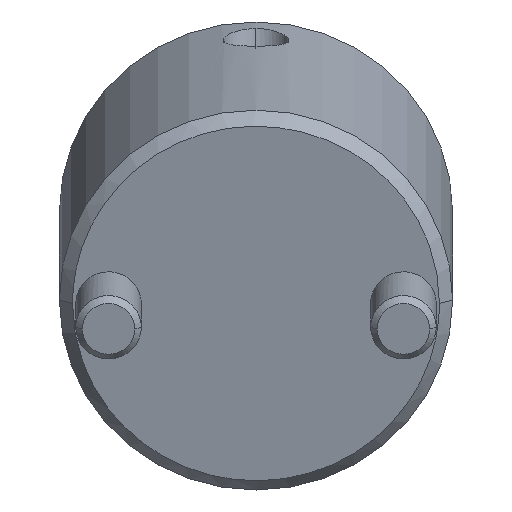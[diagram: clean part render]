
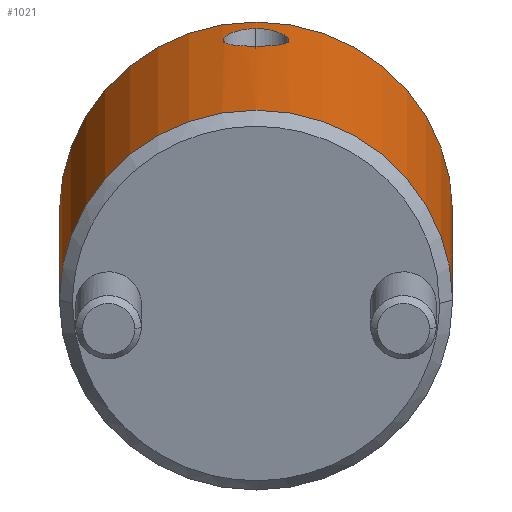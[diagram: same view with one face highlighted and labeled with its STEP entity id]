
A CAD part, front view. The second image highlights one B-rep face of the part: STEP entity #1021.
In plain terms, the highlighted cylindrical face has radius 15 mm (diameter 30 mm), a partial arc.
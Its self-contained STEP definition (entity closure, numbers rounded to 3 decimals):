
#787=CARTESIAN_POINT('Vertex',(0.,15.,1.)) ;
#790=CARTESIAN_POINT('Axis2P3D Location',(0.,0.,1.)) ;
#794=CARTESIAN_POINT('Vertex',(0.,-15.,1.)) ;
#934=CARTESIAN_POINT('Axis2P3D Location',(0.,0.,-1.4)) ;
#939=CARTESIAN_POINT('Line Origine',(0.,15.,-1.4)) ;
#943=CARTESIAN_POINT('Vertex',(0.,15.,27.)) ;
#946=CARTESIAN_POINT('Axis2P3D Location',(0.,0.,27.)) ;
#950=CARTESIAN_POINT('Vertex',(0.,-15.,27.)) ;
#953=CARTESIAN_POINT('Line Origine',(0.,-15.,-1.4)) ;
#965=CARTESIAN_POINT('Control Point',(15.,0.,25.059)) ;
#966=CARTESIAN_POINT('Control Point',(15.,0.222,25.059)) ;
#967=CARTESIAN_POINT('Control Point',(14.996,0.441,25.033)) ;
#968=CARTESIAN_POINT('Control Point',(14.988,0.664,24.978)) ;
#969=CARTESIAN_POINT('Control Point',(14.963,1.097,24.816)) ;
#970=CARTESIAN_POINT('Control Point',(14.929,1.474,24.561)) ;
#971=CARTESIAN_POINT('Control Point',(14.91,1.652,24.41)) ;
#972=CARTESIAN_POINT('Control Point',(14.878,1.921,24.124)) ;
#973=CARTESIAN_POINT('Control Point',(14.848,2.135,23.79)) ;
#974=CARTESIAN_POINT('Control Point',(14.836,2.213,23.647)) ;
#975=CARTESIAN_POINT('Control Point',(14.816,2.345,23.354)) ;
#976=CARTESIAN_POINT('Control Point',(14.801,2.433,23.043)) ;
#977=CARTESIAN_POINT('Control Point',(14.796,2.465,22.887)) ;
#978=CARTESIAN_POINT('Control Point',(14.784,2.538,22.331)) ;
#979=CARTESIAN_POINT('Control Point',(14.795,2.468,21.774)) ;
#980=CARTESIAN_POINT('Control Point',(14.817,2.344,21.395)) ;
#981=CARTESIAN_POINT('Control Point',(14.865,2.036,20.848)) ;
#982=CARTESIAN_POINT('Control Point',(14.917,1.588,20.428)) ;
#983=CARTESIAN_POINT('Control Point',(14.936,1.4,20.29)) ;
#984=CARTESIAN_POINT('Control Point',(14.968,1.025,20.073)) ;
#985=CARTESIAN_POINT('Control Point',(14.99,0.603,19.943)) ;
#986=CARTESIAN_POINT('Control Point',(14.997,0.4,19.901)) ;
#987=CARTESIAN_POINT('Control Point',(15.,0.2,19.882)) ;
#988=CARTESIAN_POINT('Control Point',(15.,0.,19.882)) ;
#989=CARTESIAN_POINT('Vertex',(15.,0.,25.059)) ;
#991=CARTESIAN_POINT('Vertex',(15.,0.,19.882)) ;
#995=CARTESIAN_POINT('Control Point',(15.,0.,19.882)) ;
#996=CARTESIAN_POINT('Control Point',(15.,-0.15,19.882)) ;
#997=CARTESIAN_POINT('Control Point',(14.998,-0.301,19.893)) ;
#998=CARTESIAN_POINT('Control Point',(14.994,-0.451,19.916)) ;
#999=CARTESIAN_POINT('Control Point',(14.983,-0.753,19.986)) ;
#1000=CARTESIAN_POINT('Control Point',(14.965,-1.042,20.1)) ;
#1001=CARTESIAN_POINT('Control Point',(14.955,-1.178,20.167)) ;
#1002=CARTESIAN_POINT('Control Point',(14.909,-1.705,20.479)) ;
#1003=CARTESIAN_POINT('Control Point',(14.853,-2.123,20.942)) ;
#1004=CARTESIAN_POINT('Control Point',(14.815,-2.352,21.362)) ;
#1005=CARTESIAN_POINT('Control Point',(14.772,-2.605,22.299)) ;
#1006=CARTESIAN_POINT('Control Point',(14.802,-2.429,23.275)) ;
#1007=CARTESIAN_POINT('Control Point',(14.837,-2.229,23.737)) ;
#1008=CARTESIAN_POINT('Control Point',(14.891,-1.852,24.258)) ;
#1009=CARTESIAN_POINT('Control Point',(14.939,-1.36,24.633)) ;
#1010=CARTESIAN_POINT('Control Point',(14.95,-1.233,24.717)) ;
#1011=CARTESIAN_POINT('Control Point',(14.974,-0.926,24.884)) ;
#1012=CARTESIAN_POINT('Control Point',(14.99,-0.587,24.995)) ;
#1013=CARTESIAN_POINT('Control Point',(14.997,-0.391,25.039)) ;
#1014=CARTESIAN_POINT('Control Point',(15.,-0.196,25.059)) ;
#1015=CARTESIAN_POINT('Control Point',(15.,0.,25.059)) ;
#791=DIRECTION('Axis2P3D Direction',(0.,0.,1.)) ;
#935=DIRECTION('Axis2P3D Direction',(0.,-0.,1.)) ;
#936=DIRECTION('Axis2P3D XDirection',(0.,-1.,0.)) ;
#940=DIRECTION('Vector Direction',(0.,0.,1.)) ;
#947=DIRECTION('Axis2P3D Direction',(0.,-0.,1.)) ;
#954=DIRECTION('Vector Direction',(0.,0.,1.)) ;
#792=AXIS2_PLACEMENT_3D('Circle Axis2P3D',#790,#791,$) ;
#937=AXIS2_PLACEMENT_3D('Cylinder Axis2P3D',#934,#935,#936) ;
#948=AXIS2_PLACEMENT_3D('Circle Axis2P3D',#946,#947,$) ;
#959=ORIENTED_EDGE('',*,*,#945,.F.) ;
#960=ORIENTED_EDGE('',*,*,#952,.T.) ;
#961=ORIENTED_EDGE('',*,*,#957,.T.) ;
#962=ORIENTED_EDGE('',*,*,#796,.F.) ;
#1018=ORIENTED_EDGE('',*,*,#993,.T.) ;
#1019=ORIENTED_EDGE('',*,*,#1016,.T.) ;
#1020=FACE_BOUND('',#1017,.T.) ;
#941=VECTOR('Line Direction',#940,1.) ;
#955=VECTOR('Line Direction',#954,1.) ;
#1021=ADVANCED_FACE('MANIFOLD_SOLID_BREP #1110',(#963,#1020),#938,.T.) ;
#964=B_SPLINE_CURVE_WITH_KNOTS('',5,(#965,#966,#967,#968,#969,#970,#971,#972,#973,#974,#975,#976,#977,#978,#979,#980,#981,#982,#983,#984,#985,#986,#987,#988),.UNSPECIFIED.,.F.,.U.,(6,3,3,3,3,3,3,6),(0.,1.607,3.272,4.392,5.5,8.246,9.875,11.325),.UNSPECIFIED.) ;
#994=B_SPLINE_CURVE_WITH_KNOTS('',5,(#995,#996,#997,#998,#999,#1000,#1001,#1002,#1003,#1004,#1005,#1006,#1007,#1008,#1009,#1010,#1011,#1012,#1013,#1014,#1015),.UNSPECIFIED.,.F.,.U.,(6,3,3,3,3,3,6),(0.,1.097,2.19,5.49,8.837,9.921,11.335),.UNSPECIFIED.) ;
#793=CIRCLE('generated circle',#792,15.) ;
#949=CIRCLE('generated circle',#948,15.) ;
#938=CYLINDRICAL_SURFACE('generated cylinder',#937,15.) ;
#796=EDGE_CURVE('',#788,#795,#793,.F.) ;
#945=EDGE_CURVE('',#944,#788,#942,.F.) ;
#952=EDGE_CURVE('',#944,#951,#949,.F.) ;
#957=EDGE_CURVE('',#951,#795,#956,.F.) ;
#993=EDGE_CURVE('',#990,#992,#964,.T.) ;
#1016=EDGE_CURVE('',#992,#990,#994,.T.) ;
#958=EDGE_LOOP('',(#959,#960,#961,#962)) ;
#1017=EDGE_LOOP('',(#1018,#1019)) ;
#963=FACE_OUTER_BOUND('',#958,.T.) ;
#942=LINE('Line',#939,#941) ;
#956=LINE('Line',#953,#955) ;
#788=VERTEX_POINT('',#787) ;
#795=VERTEX_POINT('',#794) ;
#944=VERTEX_POINT('',#943) ;
#951=VERTEX_POINT('',#950) ;
#990=VERTEX_POINT('',#989) ;
#992=VERTEX_POINT('',#991) ;
